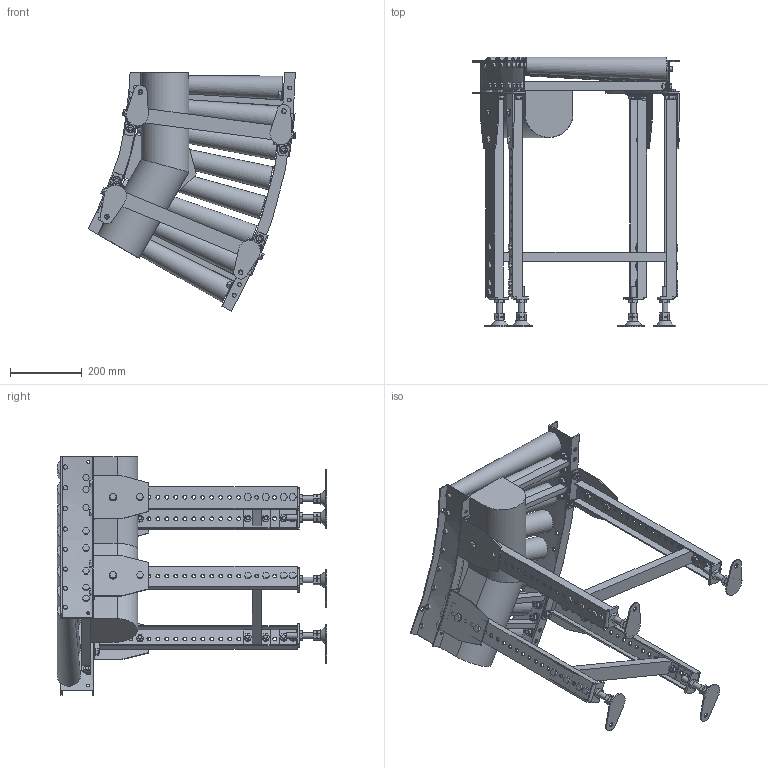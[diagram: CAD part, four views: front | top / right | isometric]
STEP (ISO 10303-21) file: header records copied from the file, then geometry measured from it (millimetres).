
FILE_DESCRIPTION( (''), '2;1');
FILE_NAME ('WEB-MCD-50-400-75-30°-C9.stp','2026-02-20T12:12:52',(''),(''),'spGate 20.6.2 (****-****-****-****)','','');
FILE_SCHEMA (('AUTOMOTIVE_DESIGN'));
Length unit declared in the file: millimetre
Products named in the file (30): WEB-MCD-50-400-75-30_-C9; TEMP_X_T-prt0; TEMP_X_T-prt1; TEMP_X_T-prt2; TEMP_X_T-prt3; TEMP_X_T-prt4; TEMP_X_T-prt5; TEMP_X_T-prt6; TEMP_X_T-prt7; TEMP_X_T-prt8; TEMP_X_T-prt9; TEMP_X_T-prt10; TEMP_X_T-prt11; TEMP_X_T-prt12; TEMP_X_T-prt13; TEMP_X_T-prt14; TEMP_X_T-prt15; TEMP_X_T-prt16; TEMP_X_T-prt17; TEMP_X_T-prt18; TEMP_X_T-prt19; TEMP_X_T-prt20; TEMP_X_T-prt21; TEMP_X_T-prt22; TEMP_X_T-prt23; TEMP_X_T-prt24; TEMP_X_T-prt25; TEMP_X_T-prt26; TEMP_X_T-prt27; TEMP_X_T-prt28
Assembly tree (29 placements, depth 2):
  WEB-MCD-50-400-75-30_-C9
    TEMP_X_T-prt0
    TEMP_X_T-prt1
    TEMP_X_T-prt2
    TEMP_X_T-prt3
    TEMP_X_T-prt4
    TEMP_X_T-prt5
    TEMP_X_T-prt6
    TEMP_X_T-prt7
    TEMP_X_T-prt8
    TEMP_X_T-prt9
    TEMP_X_T-prt10
    TEMP_X_T-prt11
    TEMP_X_T-prt12
    TEMP_X_T-prt13
    TEMP_X_T-prt14
    TEMP_X_T-prt15
    TEMP_X_T-prt16
    TEMP_X_T-prt17
    TEMP_X_T-prt18
    TEMP_X_T-prt19
    TEMP_X_T-prt20
    TEMP_X_T-prt21
    TEMP_X_T-prt22
    TEMP_X_T-prt23
    TEMP_X_T-prt24
    TEMP_X_T-prt25
    TEMP_X_T-prt26
    TEMP_X_T-prt27
    TEMP_X_T-prt28
Bounding box: 577.81 x 749.97 x 665 mm (x, y, z)
Volume: 19427876.7 mm3; surface area: 2272001.6 mm2
Topology: 29 solids, 53 shells, 2073 faces, 4987 edges, 3226 vertices
Faces by surface type: plane 1750, cylinder 311, bspline 12
Full cylindrical faces by diameter (mm): 8.5 x6, 10 x56, 10.5 x92, 11 x6, 12 x16, 13 x4, 14 x5, 16 x4, 18.4 x38, 18.5 x8, 21 x26
Entity records: 103955 total; most frequent: CARTESIAN_POINT 12641, DIRECTION 10367, ORIENTED_EDGE 9974, COLOUR_RGB 7089, PRESENTATION_STYLE_ASSIGNMENT 7089, STYLED_ITEM 7089, EDGE_CURVE 4987, DRAUGHTING_PRE_DEFINED_CURVE_FONT 4987
